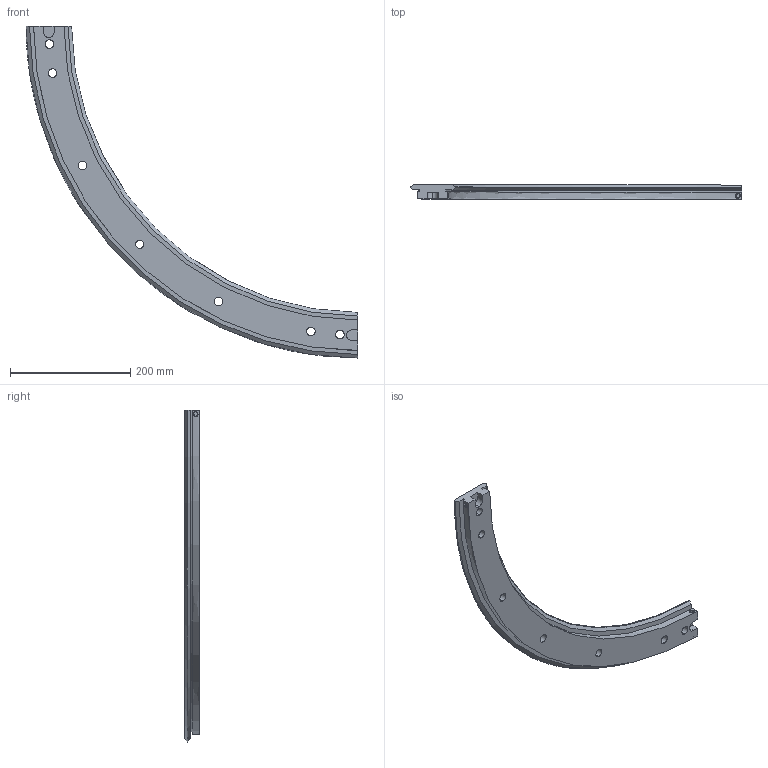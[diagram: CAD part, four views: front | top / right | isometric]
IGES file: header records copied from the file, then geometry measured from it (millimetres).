
Start section: 3D InterOp IGES (v. 2019 1.0.2), Spatial Corp. Copyright (c) 1999-2017.
Global section: file name: TR76 1033 R90.igs; native system: Spatial Corp.; preprocessor: 3D InterOp GENERIC/IGES 3.0; author: Noname; organization: Noname; date: 20220628.092404; units: millimetre
Bounding box: 551.8 x 24 x 551.8 mm (x, y, z)
Surface area: 174262.2 mm2 (no closed solid volume)
Topology: 0 solids, 0 shells, 103 faces, 516 edges, 516 vertices
Faces by surface type: extrusion 53, revolution 50
